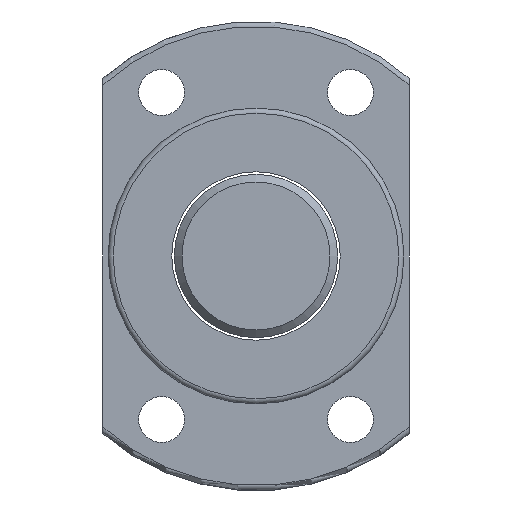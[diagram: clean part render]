
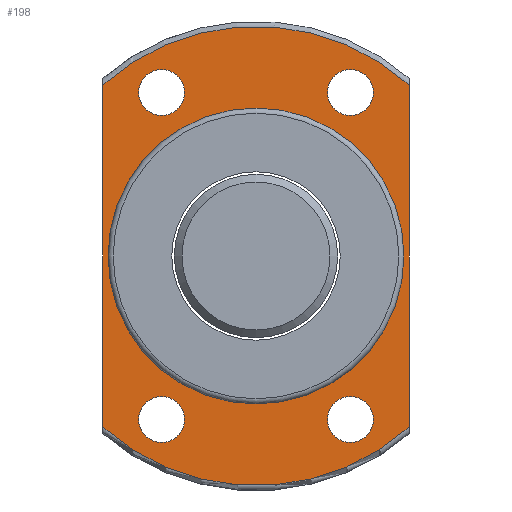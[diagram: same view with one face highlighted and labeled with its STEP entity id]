
A CAD part, left-side view. The second image highlights one B-rep face of the part: STEP entity #198.
In plain terms, the highlighted planar face has unit normal (-1, 0, 0).
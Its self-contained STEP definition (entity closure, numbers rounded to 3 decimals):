
#106=PLANE('',#595);
#121=FACE_BOUND('',#266,.T.);
#122=FACE_BOUND('',#267,.T.);
#123=FACE_BOUND('',#268,.T.);
#124=FACE_BOUND('',#269,.T.);
#125=FACE_BOUND('',#270,.T.);
#182=LINE('',#872,#190);
#183=LINE('',#873,#191);
#190=VECTOR('',#693,1.);
#191=VECTOR('',#694,1.);
#198=ADVANCED_FACE('',(#121,#122,#123,#124,#125,#242),#106,.F.);
#242=FACE_OUTER_BOUND('',#271,.T.);
#266=EDGE_LOOP('',(#383));
#267=EDGE_LOOP('',(#384));
#268=EDGE_LOOP('',(#385));
#269=EDGE_LOOP('',(#386));
#270=EDGE_LOOP('',(#387));
#271=EDGE_LOOP('',(#388,#389,#390,#391));
#326=CIRCLE('',#576,45.);
#335=CIRCLE('',#589,29.);
#336=CIRCLE('',#590,4.5);
#337=CIRCLE('',#591,4.5);
#338=CIRCLE('',#592,4.5);
#339=CIRCLE('',#593,4.5);
#340=CIRCLE('',#594,45.);
#383=ORIENTED_EDGE('',*,*,#531,.T.);
#384=ORIENTED_EDGE('',*,*,#532,.T.);
#385=ORIENTED_EDGE('',*,*,#533,.T.);
#386=ORIENTED_EDGE('',*,*,#534,.T.);
#387=ORIENTED_EDGE('',*,*,#535,.T.);
#388=ORIENTED_EDGE('',*,*,#536,.F.);
#389=ORIENTED_EDGE('',*,*,#537,.T.);
#390=ORIENTED_EDGE('',*,*,#516,.F.);
#391=ORIENTED_EDGE('',*,*,#538,.F.);
#469=VERTEX_POINT('',#809);
#471=VERTEX_POINT('',#818);
#483=VERTEX_POINT('',#860);
#484=VERTEX_POINT('',#862);
#485=VERTEX_POINT('',#864);
#486=VERTEX_POINT('',#866);
#487=VERTEX_POINT('',#868);
#488=VERTEX_POINT('',#870);
#489=VERTEX_POINT('',#871);
#516=EDGE_CURVE('',#471,#469,#326,.T.);
#531=EDGE_CURVE('',#483,#483,#335,.T.);
#532=EDGE_CURVE('',#484,#484,#336,.T.);
#533=EDGE_CURVE('',#485,#485,#337,.T.);
#534=EDGE_CURVE('',#486,#486,#338,.T.);
#535=EDGE_CURVE('',#487,#487,#339,.T.);
#536=EDGE_CURVE('',#488,#489,#340,.T.);
#537=EDGE_CURVE('',#488,#469,#182,.T.);
#538=EDGE_CURVE('',#489,#471,#183,.T.);
#576=AXIS2_PLACEMENT_3D('',#819,#651,#652);
#589=AXIS2_PLACEMENT_3D('',#859,#681,#682);
#590=AXIS2_PLACEMENT_3D('',#861,#683,#684);
#591=AXIS2_PLACEMENT_3D('',#863,#685,#686);
#592=AXIS2_PLACEMENT_3D('',#865,#687,#688);
#593=AXIS2_PLACEMENT_3D('',#867,#689,#690);
#594=AXIS2_PLACEMENT_3D('',#869,#691,#692);
#595=AXIS2_PLACEMENT_3D('',#874,#695,#696);
#651=DIRECTION('',(1.,0.,0.));
#652=DIRECTION('',(0.,1.,0.));
#681=DIRECTION('',(1.,0.,0.));
#682=DIRECTION('',(0.,1.,0.));
#683=DIRECTION('',(1.,0.,0.));
#684=DIRECTION('',(0.,1.,0.));
#685=DIRECTION('',(1.,0.,0.));
#686=DIRECTION('',(0.,1.,0.));
#687=DIRECTION('',(1.,0.,0.));
#688=DIRECTION('',(0.,1.,0.));
#689=DIRECTION('',(1.,0.,0.));
#690=DIRECTION('',(0.,1.,0.));
#691=DIRECTION('',(1.,0.,0.));
#692=DIRECTION('',(0.,1.,0.));
#693=DIRECTION('',(0.,0.,-1.));
#694=DIRECTION('',(0.,0.,-1.));
#695=DIRECTION('',(1.,0.,0.));
#696=DIRECTION('',(0.,1.,0.));
#809=CARTESIAN_POINT('',(-42.5,30.,-33.541));
#818=CARTESIAN_POINT('',(-42.5,-30.,-33.541));
#819=CARTESIAN_POINT('',(-42.5,0.,0.));
#859=CARTESIAN_POINT('',(-42.5,0.,0.));
#860=CARTESIAN_POINT('',(-42.5,29.,0.));
#861=CARTESIAN_POINT('',(-42.5,18.5,32.043));
#862=CARTESIAN_POINT('',(-42.5,23.,32.043));
#863=CARTESIAN_POINT('',(-42.5,-18.5,32.043));
#864=CARTESIAN_POINT('',(-42.5,-14.,32.043));
#865=CARTESIAN_POINT('',(-42.5,-18.5,-32.043));
#866=CARTESIAN_POINT('',(-42.5,-14.,-32.043));
#867=CARTESIAN_POINT('',(-42.5,18.5,-32.043));
#868=CARTESIAN_POINT('',(-42.5,23.,-32.043));
#869=CARTESIAN_POINT('',(-42.5,0.,0.));
#870=CARTESIAN_POINT('',(-42.5,30.,33.541));
#871=CARTESIAN_POINT('',(-42.5,-30.,33.541));
#872=CARTESIAN_POINT('',(-42.5,30.,0.));
#873=CARTESIAN_POINT('',(-42.5,-30.,0.));
#874=CARTESIAN_POINT('',(-42.5,37.,0.));
